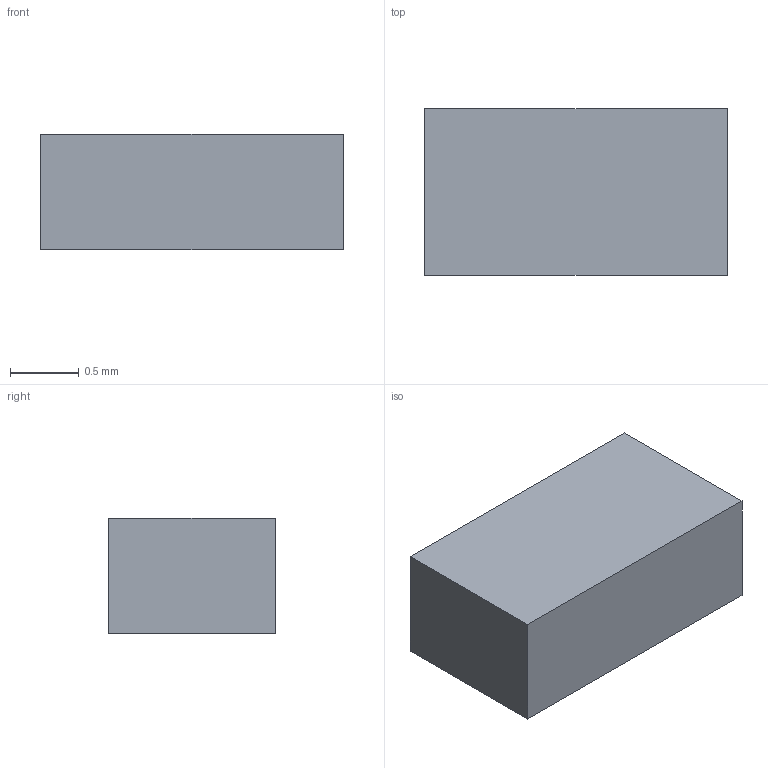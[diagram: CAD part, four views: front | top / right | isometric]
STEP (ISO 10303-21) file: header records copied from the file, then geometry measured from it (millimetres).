
FILE_DESCRIPTION(/* description */ ('STEP AP242 Edition 2','CAx-IF Rec.Pracs.---Representation and Presentation of Product Manufacturing Information (PMI)---4.0---2014-10-13','CAx-IF Rec.Pracs.---3D Tessellated Geometry---0.4---2014-09-14','2;1','CAx-IF Rec.Pracs.---User Defined Attributes---1.5---2016-08-15'),/* implementation_level */ '2;1');
FILE_NAME(/* name */ 'v2_assembly - v2 1.28.1 (2)',/* time_stamp */ '2026-05-19T16:26:08Z',/* author */ (''),/* organization */ (''),/* preprocessor_version */ 'ST-DEVELOPER v20',/* originating_system */ 'ONSHAPE BY PTC INC, 1.215',/* authorisation */ ' ');
FILE_SCHEMA (('AP242_MANAGED_MODEL_BASED_3D_ENGINEERING_MIM_LF { 1 0 10303 442 3 1 4 }'));
Length unit declared in the file: metre
Products named in the file (1): v2 1.28.1
Bounding box: 2.2 x 1.21 x 0.84 mm (x, y, z)
Volume: 2.2 mm3; surface area: 11.1 mm2
Topology: 1 solids, 1 shells, 6 faces, 12 edges, 8 vertices
Faces by surface type: plane 6
Entity records: 178 total; most frequent: CARTESIAN_POINT 27, DIRECTION 26, ORIENTED_EDGE 24, EDGE_CURVE 12, LINE 12, VECTOR 12, VERTEX_POINT 8, AXIS2_PLACEMENT_3D 7
